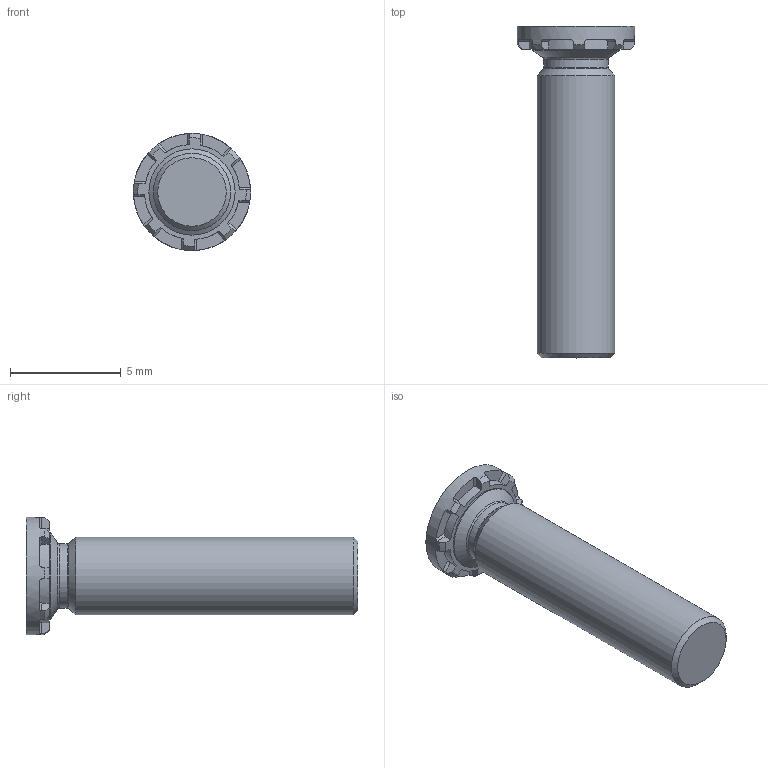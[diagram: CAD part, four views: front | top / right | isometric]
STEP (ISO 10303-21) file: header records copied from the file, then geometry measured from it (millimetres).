
FILE_DESCRIPTION(/* description */ (''),/* implementation_level */ '2;1');
FILE_NAME(/* name */ 'C:\Users\keval.kumar\Desktop\Fastit\Clinch Screw- FH Range\M3.5\Clinch Screw-FH Range_M3.5x15.stp',/* time_stamp */ '2024-03-12T11:54:18+05:00',/* author */ ('keval.kumar'),/* organization */ (''),/* preprocessor_version */ 'ST-DEVELOPER v18.1',/* originating_system */ 'Autodesk Inventor 2022',/* authorisation */ '');
FILE_SCHEMA (('AUTOMOTIVE_DESIGN { 1 0 10303 214 3 1 1 }'));
Length unit declared in the file: millimetre
Products named in the file (1): Clinch Screw-FH Range_M3.5x15
Bounding box: 5.3 x 15 x 5.3 mm (x, y, z)
Volume: 152.7 mm3; surface area: 214.8 mm2
Topology: 1 solids, 1 shells, 68 faces, 193 edges, 128 vertices
Faces by surface type: plane 43, cylinder 12, cone 11, torus 2
Full cylindrical faces by diameter (mm): 2.9 x1, 3.5 x1, 3.9 x1, 5.3 x1
Entity records: 2278 total; most frequent: CARTESIAN_POINT 422, DIRECTION 405, ORIENTED_EDGE 386, EDGE_CURVE 193, AXIS2_PLACEMENT_3D 159, VERTEX_POINT 128, LINE 87, VECTOR 87
